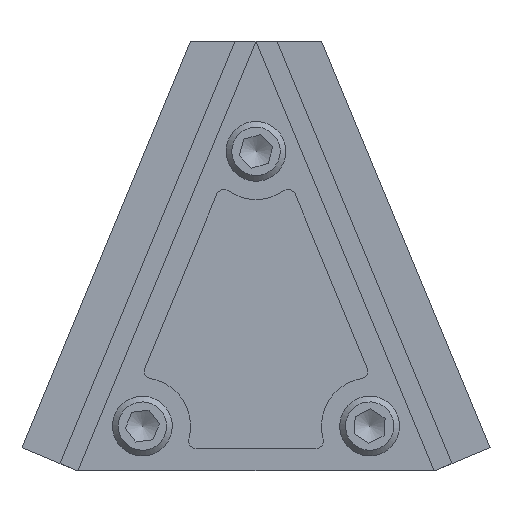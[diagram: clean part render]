
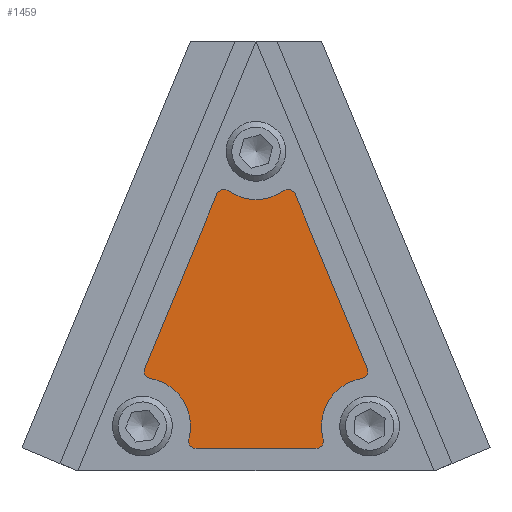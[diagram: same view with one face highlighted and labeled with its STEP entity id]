
A CAD part, left-side view. The second image highlights one B-rep face of the part: STEP entity #1459.
In plain terms, the highlighted planar face has unit normal (-1, 0, 0) as drawn and (1, 0, 0) by its records, which use the part's own axes.
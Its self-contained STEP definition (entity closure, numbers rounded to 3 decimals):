
#100=PLANE('',#1664);
#172=FACE_OUTER_BOUND('',#261,.T.);
#261=EDGE_LOOP('',(#1186,#1187,#1188,#1189,#1190,#1191,#1192,#1193,#1194,
#1195,#1196,#1197));
#379=LINE('',#2419,#520);
#380=LINE('',#2427,#521);
#381=LINE('',#2434,#522);
#520=VECTOR('',#1970,10.);
#521=VECTOR('',#1977,10.);
#522=VECTOR('',#1984,10.);
#630=CIRCLE('',#1662,1.);
#632=CIRCLE('',#1665,6.45);
#633=CIRCLE('',#1666,1.);
#634=CIRCLE('',#1667,1.);
#635=CIRCLE('',#1668,6.45);
#636=CIRCLE('',#1669,1.);
#637=CIRCLE('',#1670,1.);
#638=CIRCLE('',#1671,6.45);
#639=CIRCLE('',#1672,1.);
#725=VERTEX_POINT('',#2405);
#726=VERTEX_POINT('',#2406);
#729=VERTEX_POINT('',#2414);
#730=VERTEX_POINT('',#2416);
#731=VERTEX_POINT('',#2418);
#732=VERTEX_POINT('',#2420);
#733=VERTEX_POINT('',#2422);
#734=VERTEX_POINT('',#2424);
#735=VERTEX_POINT('',#2426);
#736=VERTEX_POINT('',#2428);
#737=VERTEX_POINT('',#2430);
#738=VERTEX_POINT('',#2432);
#890=EDGE_CURVE('',#725,#726,#630,.T.);
#894=EDGE_CURVE('',#729,#726,#632,.T.);
#895=EDGE_CURVE('',#729,#730,#633,.T.);
#896=EDGE_CURVE('',#731,#730,#379,.T.);
#897=EDGE_CURVE('',#731,#732,#634,.T.);
#898=EDGE_CURVE('',#733,#732,#635,.T.);
#899=EDGE_CURVE('',#733,#734,#636,.T.);
#900=EDGE_CURVE('',#735,#734,#380,.T.);
#901=EDGE_CURVE('',#735,#736,#637,.T.);
#902=EDGE_CURVE('',#737,#736,#638,.T.);
#903=EDGE_CURVE('',#737,#738,#639,.T.);
#904=EDGE_CURVE('',#725,#738,#381,.T.);
#1186=ORIENTED_EDGE('',*,*,#890,.T.);
#1187=ORIENTED_EDGE('',*,*,#894,.F.);
#1188=ORIENTED_EDGE('',*,*,#895,.T.);
#1189=ORIENTED_EDGE('',*,*,#896,.F.);
#1190=ORIENTED_EDGE('',*,*,#897,.T.);
#1191=ORIENTED_EDGE('',*,*,#898,.F.);
#1192=ORIENTED_EDGE('',*,*,#899,.T.);
#1193=ORIENTED_EDGE('',*,*,#900,.F.);
#1194=ORIENTED_EDGE('',*,*,#901,.T.);
#1195=ORIENTED_EDGE('',*,*,#902,.F.);
#1196=ORIENTED_EDGE('',*,*,#903,.T.);
#1197=ORIENTED_EDGE('',*,*,#904,.F.);
#1459=ADVANCED_FACE('',(#172),#100,.T.);
#1662=AXIS2_PLACEMENT_3D('',#2407,#1958,#1959);
#1664=AXIS2_PLACEMENT_3D('',#2413,#1964,#1965);
#1665=AXIS2_PLACEMENT_3D('',#2415,#1966,#1967);
#1666=AXIS2_PLACEMENT_3D('',#2417,#1968,#1969);
#1667=AXIS2_PLACEMENT_3D('',#2421,#1971,#1972);
#1668=AXIS2_PLACEMENT_3D('',#2423,#1973,#1974);
#1669=AXIS2_PLACEMENT_3D('',#2425,#1975,#1976);
#1670=AXIS2_PLACEMENT_3D('',#2429,#1978,#1979);
#1671=AXIS2_PLACEMENT_3D('',#2431,#1980,#1981);
#1672=AXIS2_PLACEMENT_3D('',#2433,#1982,#1983);
#1958=DIRECTION('center_axis',(1.,0.,0.));
#1959=DIRECTION('ref_axis',(0.,0.278,0.961));
#1964=DIRECTION('center_axis',(1.,0.,0.));
#1965=DIRECTION('ref_axis',(0.,0.,-1.));
#1966=DIRECTION('center_axis',(1.,0.,0.));
#1967=DIRECTION('ref_axis',(0.,-0.728,-0.686));
#1968=DIRECTION('center_axis',(1.,0.,0.));
#1969=DIRECTION('ref_axis',(0.,-0.278,0.961));
#1970=DIRECTION('',(0.,0.383,0.924));
#1971=DIRECTION('center_axis',(1.,0.,0.));
#1972=DIRECTION('ref_axis',(0.,-0.875,-0.484));
#1973=DIRECTION('center_axis',(1.,0.,0.));
#1974=DIRECTION('ref_axis',(0.,0.885,-0.465));
#1975=DIRECTION('center_axis',(1.,0.,0.));
#1976=DIRECTION('ref_axis',(0.,-0.796,-0.605));
#1977=DIRECTION('',(0.,-1.,0.));
#1978=DIRECTION('center_axis',(1.,0.,0.));
#1979=DIRECTION('ref_axis',(0.,0.796,-0.605));
#1980=DIRECTION('center_axis',(1.,0.,0.));
#1981=DIRECTION('ref_axis',(0.,0.033,0.999));
#1982=DIRECTION('center_axis',(1.,0.,0.));
#1983=DIRECTION('ref_axis',(0.,0.875,-0.484));
#1984=DIRECTION('',(0.,0.383,-0.924));
#2405=CARTESIAN_POINT('',(3.3,5.224,37.049));
#2406=CARTESIAN_POINT('',(3.3,3.723,37.483));
#2407=CARTESIAN_POINT('Origin',(3.3,4.3,36.666));
#2413=CARTESIAN_POINT('Origin',(3.3,0.,18.91));
#2414=CARTESIAN_POINT('',(3.3,-3.723,37.483));
#2415=CARTESIAN_POINT('Origin',(3.3,0.,42.75));
#2416=CARTESIAN_POINT('',(3.3,-5.224,37.049));
#2417=CARTESIAN_POINT('Origin',(3.3,-4.3,36.666));
#2418=CARTESIAN_POINT('',(3.3,-14.883,13.729));
#2419=CARTESIAN_POINT('',(3.3,-15.415,12.446));
#2420=CARTESIAN_POINT('',(3.3,-14.126,12.36));
#2421=CARTESIAN_POINT('Origin',(3.3,-13.96,13.346));
#2422=CARTESIAN_POINT('',(3.3,-8.987,4.268));
#2423=CARTESIAN_POINT('Origin',(3.3,-15.2,6.));
#2424=CARTESIAN_POINT('',(3.3,-8.023,3.));
#2425=CARTESIAN_POINT('Origin',(3.3,-8.023,4.));
#2426=CARTESIAN_POINT('',(3.3,8.023,3.));
#2427=CARTESIAN_POINT('',(3.3,9.49,3.));
#2428=CARTESIAN_POINT('',(3.3,8.987,4.268));
#2429=CARTESIAN_POINT('Origin',(3.3,8.023,4.));
#2430=CARTESIAN_POINT('',(3.3,14.126,12.36));
#2431=CARTESIAN_POINT('Origin',(3.3,15.2,6.));
#2432=CARTESIAN_POINT('',(3.3,14.883,13.729));
#2433=CARTESIAN_POINT('Origin',(3.3,13.96,13.346));
#2434=CARTESIAN_POINT('',(3.3,4.695,38.327));
